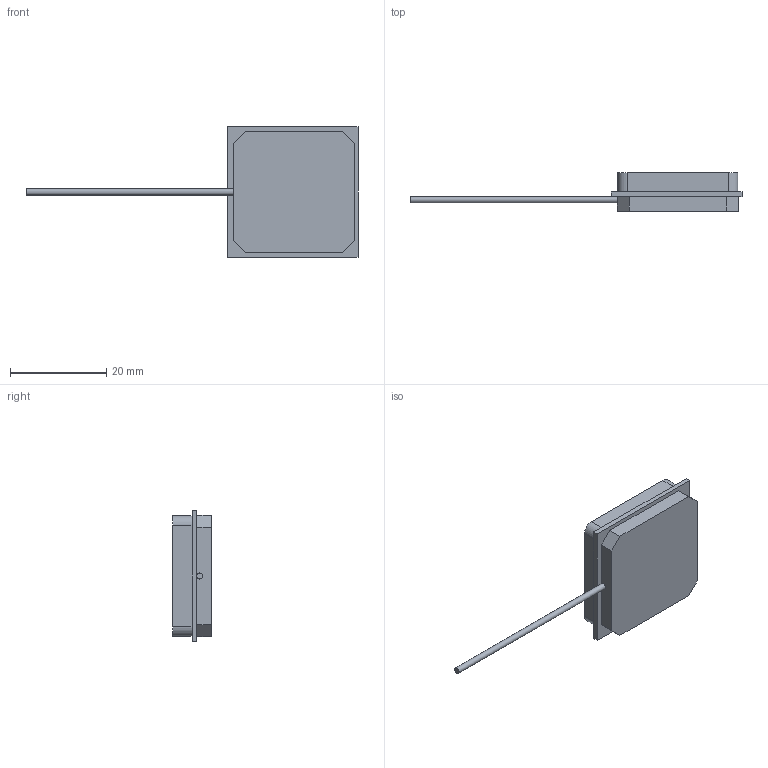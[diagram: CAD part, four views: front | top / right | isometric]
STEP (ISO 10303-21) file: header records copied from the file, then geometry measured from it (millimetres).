
FILE_DESCRIPTION(/* description */ (''),/* implementation_level */ '2;1');
FILE_NAME(/* name */ 'Antena GNSS 25x25 colorido.step',/* time_stamp */ '2026-04-26T09:19:28-03:00',/* author */ (''),/* organization */ (''),/* preprocessor_version */ 'ST-DEVELOPER v20.1',/* originating_system */ 'Autodesk Translation Framework v14.24.0.0',/* authorisation */ '');
FILE_SCHEMA (('AUTOMOTIVE_DESIGN { 1 0 10303 214 3 1 1 }'));
Length unit declared in the file: millimetre
Products named in the file (1): Antena GNSS 25x25 colorido
Bounding box: 68.94 x 8 x 27.1 mm (x, y, z)
Volume: 5143.9 mm3; surface area: 2419.9 mm2
Topology: 2 solids, 2 shells, 28 faces, 66 edges, 44 vertices
Faces by surface type: plane 22, cylinder 5, cone 1
Full cylindrical faces by diameter (mm): 1.25 x1
Entity records: 880 total; most frequent: CARTESIAN_POINT 138, DIRECTION 134, ORIENTED_EDGE 130, EDGE_CURVE 65, LINE 54, VECTOR 54, VERTEX_POINT 44, AXIS2_PLACEMENT_3D 40
